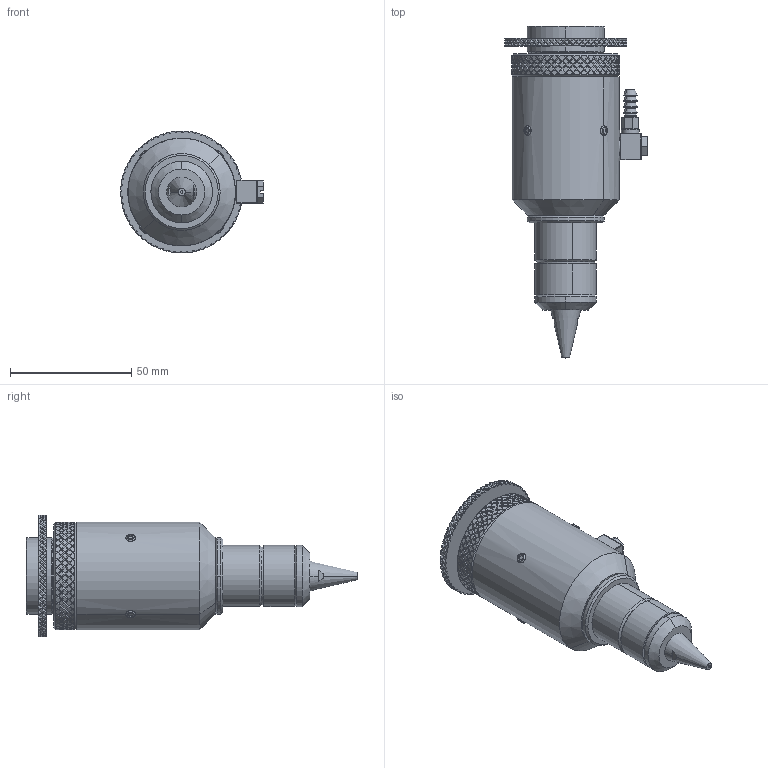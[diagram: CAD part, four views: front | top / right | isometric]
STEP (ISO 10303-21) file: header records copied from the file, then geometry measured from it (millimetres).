
FILE_DESCRIPTION (( 'STEP AP214' ), '1' );
FILE_NAME ('PHA-25-25-095-LB.STEP', '2016-10-10T19:46:13', ( '' ), ( '' ), 'SwSTEP 2.0', 'SolidWorks 2016', '' );
FILE_SCHEMA (( 'AUTOMOTIVE_DESIGN' ));
Length unit declared in the file: inch
Products named in the file (1): PHA-25-25-095-LB
Bounding box: 58.8 x 137.03 x 50.29 mm (x, y, z)
Volume: 122714.1 mm3; surface area: 22832.5 mm2
Topology: 1 solids, 1 shells, 2811 faces, 6208 edges, 3406 vertices
Faces by surface type: plane 2116, cylinder 598, cone 40, torus 37, sphere 20
Entity records: 74122 total; most frequent: CARTESIAN_POINT 19507, ORIENTED_EDGE 12376, DIRECTION 10166, EDGE_CURVE 6188, VERTEX_POINT 3406, AXIS2_PLACEMENT_3D 3395, VECTOR 3376, LINE 3376
